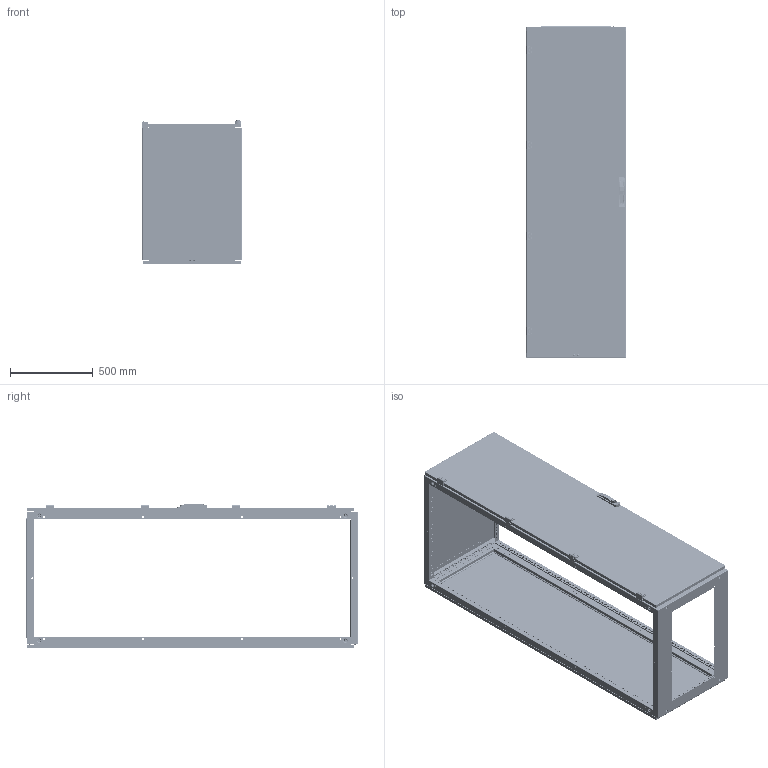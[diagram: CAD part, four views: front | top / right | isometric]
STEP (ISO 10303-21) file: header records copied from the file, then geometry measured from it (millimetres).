
FILE_DESCRIPTION (( 'STEP AP214' ), '1' );
FILE_NAME ('QA200608.step', '2011-08-10T07:28:41', ( 'Radek Veselý' ), ( 'Siemens and Partners' ), 'SwSTEP 2.0', 'SolidWorks 2006303', '' );
FILE_SCHEMA (( 'AUTOMOTIVE_DESIGN' ));
Length unit declared in the file: millimetre
Products named in the file (1): QA200608
Bounding box: 600 x 2004.5 x 876 mm (x, y, z)
Volume: 9784355 mm3; surface area: 11245160.1 mm2
Topology: 94 solids, 94 shells, 7015 faces, 19132 edges, 12300 vertices
Faces by surface type: plane 3784, cylinder 2659, cone 300, torus 164, sphere 60, bspline 48
Entity records: 306216 total; most frequent: CARTESIAN_POINT 40890, DIRECTION 38696, ORIENTED_EDGE 37856, EDGE_CURVE 18928, AXIS2_PLACEMENT_3D 12997, VECTOR 12702, LINE 12702, VERTEX_POINT 12284
